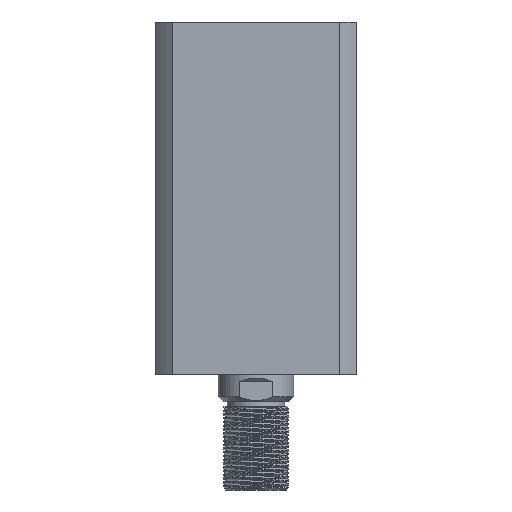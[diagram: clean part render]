
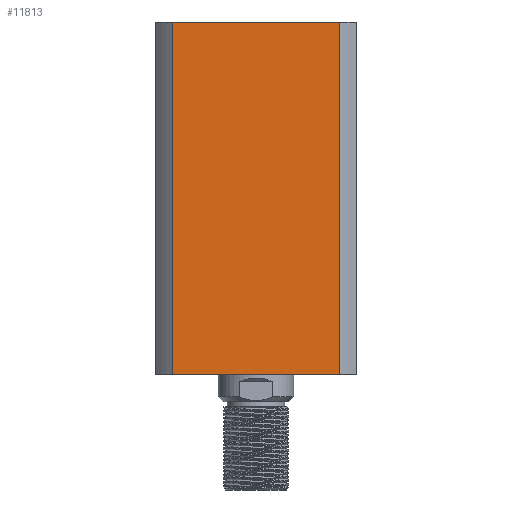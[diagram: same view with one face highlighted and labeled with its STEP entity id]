
A CAD part, left-side view. The second image highlights one B-rep face of the part: STEP entity #11813.
In plain terms, the highlighted planar face has unit normal (-1, 0, 0).
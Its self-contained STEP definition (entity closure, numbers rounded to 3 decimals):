
#90 = CARTESIAN_POINT ( 'NONE',  ( -40., 33.226, 70. ) ) ;
#1278 = VERTEX_POINT ( 'NONE', #8979 ) ;
#1402 = ORIENTED_EDGE ( 'NONE', *, *, #16955, .F. ) ;
#1691 = CARTESIAN_POINT ( 'NONE',  ( -40., 33.226, 70. ) ) ;
#1739 = FACE_OUTER_BOUND ( 'NONE', #11260, .T. ) ;
#1880 = DIRECTION ( 'NONE',  ( 0., 1., 0. ) ) ;
#2004 = DIRECTION ( 'NONE',  ( 1., 0., 0. ) ) ;
#2313 = AXIS2_PLACEMENT_3D ( 'NONE', #12805, #2004, #1880 ) ;
#2375 = LINE ( 'NONE', #10270, #15968 ) ;
#4557 = EDGE_CURVE ( 'NONE', #14023, #5085, #11493, .T. ) ;
#5085 = VERTEX_POINT ( 'NONE', #12423 ) ;
#5600 = DIRECTION ( 'NONE',  ( 0., -1., 0. ) ) ;
#5973 = PLANE ( 'NONE',  #2313 ) ;
#6190 = CARTESIAN_POINT ( 'NONE',  ( -40., -33.226, -70. ) ) ;
#6766 = ORIENTED_EDGE ( 'NONE', *, *, #4557, .F. ) ;
#7356 = DIRECTION ( 'NONE',  ( 0., 0., -1. ) ) ;
#7486 = ORIENTED_EDGE ( 'NONE', *, *, #13479, .T. ) ;
#8868 = CARTESIAN_POINT ( 'NONE',  ( -40., -33.226, 70. ) ) ;
#8979 = CARTESIAN_POINT ( 'NONE',  ( -40., 33.226, -70. ) ) ;
#9758 = DIRECTION ( 'NONE',  ( 0., -1., 0. ) ) ;
#10270 = CARTESIAN_POINT ( 'NONE',  ( -40., 33.226, 70. ) ) ;
#10389 = VECTOR ( 'NONE', #7356, 1000. ) ;
#10837 = LINE ( 'NONE', #8868, #10389 ) ;
#10977 = ORIENTED_EDGE ( 'NONE', *, *, #12187, .T. ) ;
#11260 = EDGE_LOOP ( 'NONE', ( #10977, #1402, #6766, #7486 ) ) ;
#11493 = LINE ( 'NONE', #90, #15806 ) ;
#11813 = ADVANCED_FACE ( 'NONE', ( #1739 ), #5973, .F. ) ;
#11849 = LINE ( 'NONE', #16592, #15744 ) ;
#12187 = EDGE_CURVE ( 'NONE', #1278, #14212, #11849, .T. ) ;
#12423 = CARTESIAN_POINT ( 'NONE',  ( -40., -33.226, 70. ) ) ;
#12805 = CARTESIAN_POINT ( 'NONE',  ( -40., 33.226, 70. ) ) ;
#13479 = EDGE_CURVE ( 'NONE', #14023, #1278, #2375, .T. ) ;
#14023 = VERTEX_POINT ( 'NONE', #1691 ) ;
#14212 = VERTEX_POINT ( 'NONE', #6190 ) ;
#15744 = VECTOR ( 'NONE', #5600, 1000. ) ;
#15806 = VECTOR ( 'NONE', #9758, 1000. ) ;
#15968 = VECTOR ( 'NONE', #17105, 1000. ) ;
#16592 = CARTESIAN_POINT ( 'NONE',  ( -40., 33.226, -70. ) ) ;
#16955 = EDGE_CURVE ( 'NONE', #5085, #14212, #10837, .T. ) ;
#17105 = DIRECTION ( 'NONE',  ( 0., 0., -1. ) ) ;
